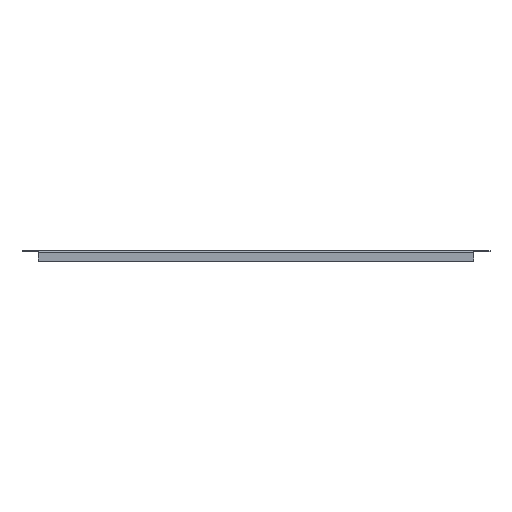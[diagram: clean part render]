
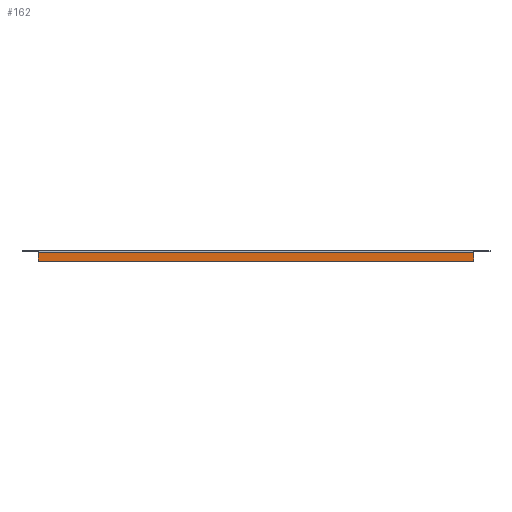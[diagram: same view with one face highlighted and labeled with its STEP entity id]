
A CAD part, front view. The second image highlights one B-rep face of the part: STEP entity #162.
In plain terms, the highlighted planar face has unit normal (0, -1, 0).
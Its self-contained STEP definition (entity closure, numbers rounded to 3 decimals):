
#17 = EDGE_LOOP ( 'NONE', ( #447, #556, #455, #565 ) ) ;
#34 = EDGE_CURVE ( 'NONE', #942, #939, #981, .T. ) ;
#47 = EDGE_CURVE ( 'NONE', #941, #942, #1018, .T. ) ;
#77 = EDGE_CURVE ( 'NONE', #936, #941, #1084, .T. ) ;
#98 = EDGE_CURVE ( 'NONE', #939, #936, #1145, .T. ) ;
#162 = ADVANCED_FACE ( 'NONE', ( #504 ), #1261, .F. ) ;
#353 = CARTESIAN_POINT ( 'NONE',  ( 309.5, -149.5, -1.2 ) ) ;
#356 = CARTESIAN_POINT ( 'NONE',  ( -309.5, -149.5, -1.2 ) ) ;
#358 = CARTESIAN_POINT ( 'NONE',  ( 309.5, -149.5, -13.8 ) ) ;
#359 = CARTESIAN_POINT ( 'NONE',  ( -309.5, -149.5, -13.8 ) ) ;
#433 = VECTOR ( 'NONE', #983, 1000. ) ;
#447 = ORIENTED_EDGE ( 'NONE', *, *, #98, .F. ) ;
#455 = ORIENTED_EDGE ( 'NONE', *, *, #47, .F. ) ;
#500 = AXIS2_PLACEMENT_3D ( 'NONE', #1262, #1263, #1264 ) ;
#504 = FACE_OUTER_BOUND ( 'NONE', #17, .T. ) ;
#556 = ORIENTED_EDGE ( 'NONE', *, *, #34, .F. ) ;
#565 = ORIENTED_EDGE ( 'NONE', *, *, #77, .F. ) ;
#628 = VECTOR ( 'NONE', #1020, 1000. ) ;
#674 = VECTOR ( 'NONE', #1086, 1000. ) ;
#694 = VECTOR ( 'NONE', #1147, 1000. ) ;
#936 = VERTEX_POINT ( 'NONE', #353 ) ;
#939 = VERTEX_POINT ( 'NONE', #356 ) ;
#941 = VERTEX_POINT ( 'NONE', #358 ) ;
#942 = VERTEX_POINT ( 'NONE', #359 ) ;
#981 = LINE ( 'NONE', #982, #433 ) ;
#982 = CARTESIAN_POINT ( 'NONE',  ( -309.5, -149.5, -13.8 ) ) ;
#983 = DIRECTION ( 'NONE',  ( 0., 0., 1. ) ) ;
#1018 = LINE ( 'NONE', #1019, #628 ) ;
#1019 = CARTESIAN_POINT ( 'NONE',  ( 309.5, -149.5, -13.8 ) ) ;
#1020 = DIRECTION ( 'NONE',  ( -1., 0., 0. ) ) ;
#1084 = LINE ( 'NONE', #1085, #674 ) ;
#1085 = CARTESIAN_POINT ( 'NONE',  ( 309.5, -149.5, 0. ) ) ;
#1086 = DIRECTION ( 'NONE',  ( 0., 0., -1. ) ) ;
#1145 = LINE ( 'NONE', #1146, #694 ) ;
#1146 = CARTESIAN_POINT ( 'NONE',  ( 309.5, -149.5, -1.2 ) ) ;
#1147 = DIRECTION ( 'NONE',  ( 1., 0., 0. ) ) ;
#1261 = PLANE ( 'NONE',  #500 ) ;
#1262 = CARTESIAN_POINT ( 'NONE',  ( 309.5, -149.5, 0. ) ) ;
#1263 = DIRECTION ( 'NONE',  ( 0., 1., 0. ) ) ;
#1264 = DIRECTION ( 'NONE',  ( 0., 0., 1. ) ) ;
